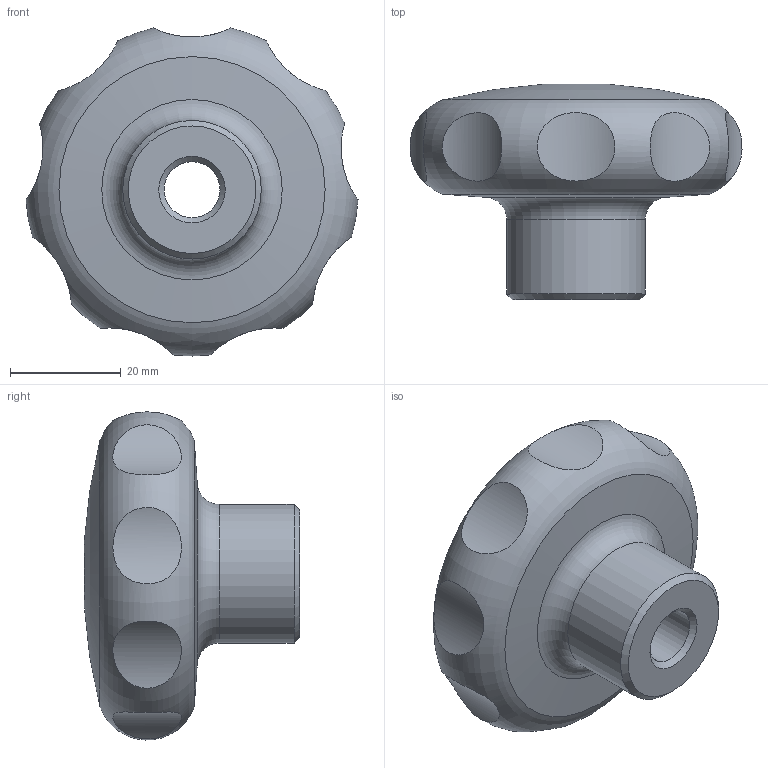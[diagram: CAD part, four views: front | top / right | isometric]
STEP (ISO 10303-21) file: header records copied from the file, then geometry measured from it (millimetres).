
FILE_DESCRIPTION( ( 'STEP AP203' ), '1' );
FILE_NAME( 'C:/Temp/Ganter_Step_05_03_2020/data/2_2/gn_5335/gn_5335_ni_d/Stainless steel-Star knob GN 5335-60-M12-D.stp', '2020-03-05T12:10:24', ( 'License CC BY-ND 4.0' ), ( 'CADENAS' ), ' ', 'PARTsolutions', ' ' );
FILE_SCHEMA( ( 'CONFIG_CONTROL_DESIGN' ) );
Length unit declared in the file: millimetre
Products named in the file (1): _Stainless steel-Star knob GN 5335-60-M12-D
Bounding box: 59.88 x 38.82 x 59.16 mm (x, y, z)
Volume: 50589.7 mm3; surface area: 9897.5 mm2
Topology: 1 solids, 1 shells, 20 faces, 30 edges, 20 vertices
Faces by surface type: cylinder 12, cone 3, torus 2, sphere 2, plane 1
Full cylindrical faces by diameter (mm): 10.106 x1, 12 x1, 25 x1
Entity records: 1200 total; most frequent: CARTESIAN_POINT 833, DIRECTION 64, EDGE_LOOP 40, ORIENTED_EDGE 40, AXIS2_PLACEMENT_3D 32, FACE_OUTER_BOUND 27, VERTEX_POINT 21, ADVANCED_FACE 20
